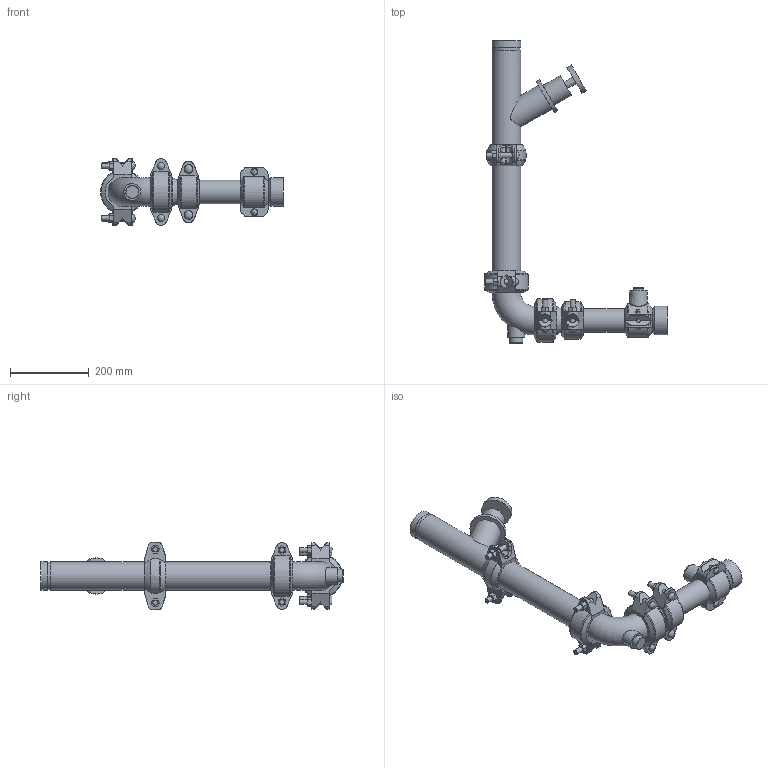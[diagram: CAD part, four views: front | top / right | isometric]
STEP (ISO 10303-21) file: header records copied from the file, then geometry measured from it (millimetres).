
FILE_DESCRIPTION(/* description */ ('VIC RVI SINGLE COIL AHU DROP LOW PROFILE SERIES 385I (OGSxFPT)','CAx-IF Rec.Pracs.---Representation and Presentation of Product Manufacturing Information (PMI)---4.0---2014-10-13'),/* implementation_level */ '2;1');
FILE_NAME(/* name */ 'C:\Users\kkamble\AppData\Roaming\Autodesk\ApplicationPlugins\Victaulic.Temp\A812\Victaulic_IPS_RVI_Single Coil_Low Profile_Series 385I (OGSxFPT)_02.5x02.0 (65x50).stp',/* time_stamp */ '2021-03-17T13:02:04+06:00',/* author */ ('Vjadhav'),/* organization */ ('Victaulic'),/* preprocessor_version */ 'ST-DEVELOPER v17.2',/* originating_system */ 'Autodesk Inventor 2019',/* authorisation */ '');
FILE_SCHEMA (('AP242_MANAGED_MODEL_BASED_3D_ENGINEERING_MIM_LF { 1 0 10303 442 1 1 4 }'));
Length unit declared in the file: inch
Products named in the file (11): 385I-02.5x02.0; 080-02.0; 072-02.0x0.75; Pipe-02.0; 177N-02.0; 050-02.5x02.0; 10-DR-02.5; 177N-02.5; Pipe_(9 3/16")-02.5; 107N-02.5; 789-02.5
Assembly tree (11 placements, depth 2):
  385I-02.5x02.0
    080-02.0
    072-02.0x0.75
    Pipe-02.0
    177N-02.0
    050-02.5x02.0
    177N-02.5  x2
    10-DR-02.5
    Pipe_(9 3/16")-02.5
    107N-02.5
    789-02.5
Bounding box: 465.33 x 768.35 x 171.45 mm (x, y, z)
Volume: 3376541 mm3; surface area: 792131.5 mm2
Topology: 11 solids, 11 shells, 591 faces, 1592 edges, 1068 vertices
Faces by surface type: plane 310, cylinder 197, torus 27, bspline 25, cone 24, sphere 8
Full cylindrical faces by diameter (mm): 7.62 x4, 11.43 x2, 12.7 x10, 17.78 x2, 19.05 x5, 20.93 x1, 22.225 x4, 26.67 x1, 26.987 x1, 33.401 x1, 43.18 x1, 47.625 x1, 52.502 x3, 57.15 x5, 58.42 x2, 60.325 x14, 62.713 x3, 69.088 x7, 69.85 x1, 73.025 x17, 76.2 x1, 92.05 x1
Entity records: 18330 total; most frequent: CARTESIAN_POINT 4304, DIRECTION 2853, ORIENTED_EDGE 2704, EDGE_CURVE 1352, AXIS2_PLACEMENT_3D 1101, VERTEX_POINT 906, LINE 651, VECTOR 651
